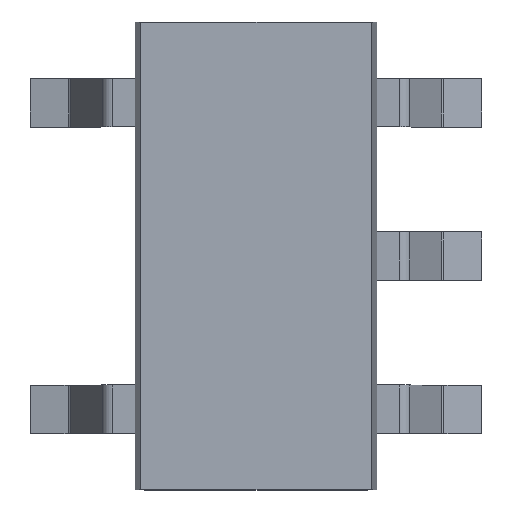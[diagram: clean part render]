
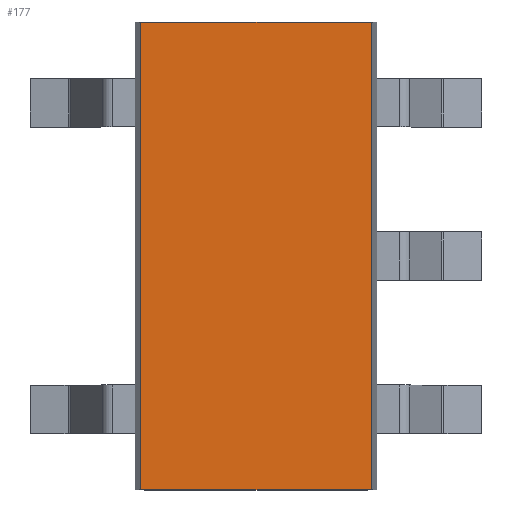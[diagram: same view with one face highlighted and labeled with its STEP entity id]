
A CAD part, top view. The second image highlights one B-rep face of the part: STEP entity #177.
In plain terms, the highlighted planar face has unit normal (0, 0, 1).
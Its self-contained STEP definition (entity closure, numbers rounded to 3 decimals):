
#177=ADVANCED_FACE('',(#301),#229,.T.);
#229=PLANE('',#1528);
#301=FACE_OUTER_BOUND('',#373,.T.);
#373=EDGE_LOOP('',(#741,#742,#743,#744));
#741=ORIENTED_EDGE('',*,*,#1089,.F.);
#742=ORIENTED_EDGE('',*,*,#1090,.T.);
#743=ORIENTED_EDGE('',*,*,#1091,.F.);
#744=ORIENTED_EDGE('',*,*,#1092,.T.);
#897=VERTEX_POINT('',#2286);
#898=VERTEX_POINT('',#2287);
#899=VERTEX_POINT('',#2289);
#900=VERTEX_POINT('',#2291);
#1089=EDGE_CURVE('',#897,#898,#1247,.T.);
#1090=EDGE_CURVE('',#897,#899,#1248,.T.);
#1091=EDGE_CURVE('',#900,#899,#1249,.T.);
#1092=EDGE_CURVE('',#900,#898,#1250,.T.);
#1247=LINE('',#2285,#1405);
#1248=LINE('',#2288,#1406);
#1249=LINE('',#2290,#1407);
#1250=LINE('',#2292,#1408);
#1405=VECTOR('',#1886,1.);
#1406=VECTOR('',#1887,1.);
#1407=VECTOR('',#1888,1.);
#1408=VECTOR('',#1889,1.);
#1528=AXIS2_PLACEMENT_3D('',#2293,#1890,#1891);
#1886=DIRECTION('',(-1.,0.,0.));
#1887=DIRECTION('',(0.,1.,0.));
#1888=DIRECTION('',(1.,0.,0.));
#1889=DIRECTION('',(0.,-1.,0.));
#1890=DIRECTION('',(0.,0.,1.));
#1891=DIRECTION('',(0.,-1.,0.));
#2285=CARTESIAN_POINT('',(-1.019,0.447,-1.696));
#2286=CARTESIAN_POINT('',(-0.304,0.447,-1.696));
#2287=CARTESIAN_POINT('',(-1.734,0.447,-1.696));
#2288=CARTESIAN_POINT('',(-0.304,1.897,-1.696));
#2289=CARTESIAN_POINT('',(-0.304,3.347,-1.696));
#2290=CARTESIAN_POINT('',(-1.019,3.347,-1.696));
#2291=CARTESIAN_POINT('',(-1.734,3.347,-1.696));
#2292=CARTESIAN_POINT('',(-1.734,1.897,-1.696));
#2293=CARTESIAN_POINT('',(-1.019,1.897,-1.696));
